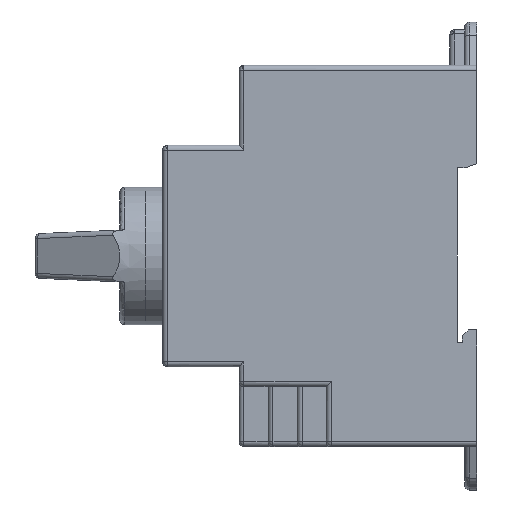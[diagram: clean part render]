
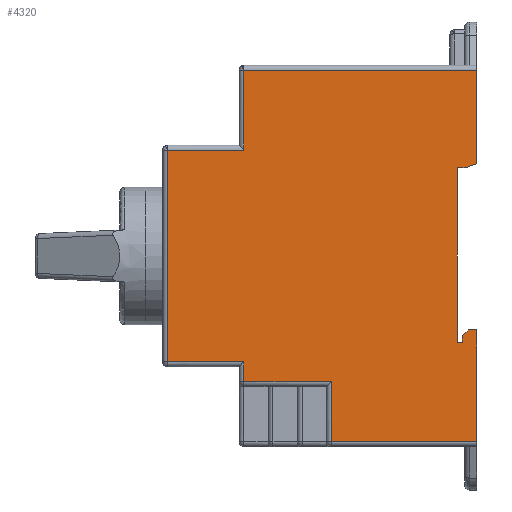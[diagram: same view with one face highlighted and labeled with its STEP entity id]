
A CAD part, left-side view. The second image highlights one B-rep face of the part: STEP entity #4320.
In plain terms, the highlighted planar face has unit normal (-1, 0, 0).
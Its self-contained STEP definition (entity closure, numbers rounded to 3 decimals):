
#18 = EDGE_CURVE ( 'NONE', #740, #2120, #5175, .T. ) ;
#26 = EDGE_CURVE ( 'NONE', #7459, #5999, #7053, .T. ) ;
#27 = DIRECTION ( 'NONE',  ( -1., 0., 0. ) ) ;
#326 = CARTESIAN_POINT ( 'NONE',  ( -30., 0., -15. ) ) ;
#327 = VECTOR ( 'NONE', #530, 1000. ) ;
#381 = CARTESIAN_POINT ( 'NONE',  ( -30., 48.3, -15. ) ) ;
#490 = DIRECTION ( 'NONE',  ( 0., 0., 1. ) ) ;
#530 = DIRECTION ( 'NONE',  ( 0., 0., -1. ) ) ;
#557 = VECTOR ( 'NONE', #8846, 1000. ) ;
#565 = DIRECTION ( 'NONE',  ( 0., 1., 0. ) ) ;
#649 = DIRECTION ( 'NONE',  ( 0., 0.707, -0.707 ) ) ;
#682 = CARTESIAN_POINT ( 'NONE',  ( -30., 47.3, 22.5 ) ) ;
#704 = VERTEX_POINT ( 'NONE', #326 ) ;
#740 = VERTEX_POINT ( 'NONE', #5548 ) ;
#748 = EDGE_CURVE ( 'NONE', #5348, #740, #7674, .T. ) ;
#874 = CARTESIAN_POINT ( 'NONE',  ( -30., 29.6, -37.7 ) ) ;
#885 = DIRECTION ( 'NONE',  ( 0., -1., 0. ) ) ;
#1061 = VECTOR ( 'NONE', #5910, 1000. ) ;
#1158 = AXIS2_PLACEMENT_3D ( 'NONE', #1830, #27, #3301 ) ;
#1283 = CARTESIAN_POINT ( 'NONE',  ( -30., 0., 22.5 ) ) ;
#1356 = CARTESIAN_POINT ( 'NONE',  ( -30., 2.397, 17.9 ) ) ;
#1830 = CARTESIAN_POINT ( 'NONE',  ( -30., 48.3, 22.5 ) ) ;
#1950 = VERTEX_POINT ( 'NONE', #9190 ) ;
#1962 = CARTESIAN_POINT ( 'NONE',  ( -30., 3.997, 22.5 ) ) ;
#2120 = VERTEX_POINT ( 'NONE', #9733 ) ;
#2207 = LINE ( 'NONE', #1356, #8258 ) ;
#2216 = LINE ( 'NONE', #381, #6154 ) ;
#2328 = EDGE_LOOP ( 'NONE', ( #7189, #6710, #4782, #10035, #8894, #3783, #2355, #3861, #9363, #5458, #8435, #2820, #7463, #5587, #4234, #8263, #6888, #4669 ) ) ;
#2355 = ORIENTED_EDGE ( 'NONE', *, *, #4299, .T. ) ;
#2468 = EDGE_CURVE ( 'NONE', #2752, #7459, #4194, .T. ) ;
#2535 = VECTOR ( 'NONE', #9530, 1000. ) ;
#2606 = VERTEX_POINT ( 'NONE', #874 ) ;
#2735 = CARTESIAN_POINT ( 'NONE',  ( -30., 2.397, 17.9 ) ) ;
#2742 = CARTESIAN_POINT ( 'NONE',  ( -30., 3.997, -17.5 ) ) ;
#2752 = VERTEX_POINT ( 'NONE', #3087 ) ;
#2770 = EDGE_CURVE ( 'NONE', #2606, #4236, #9407, .T. ) ;
#2803 = VECTOR ( 'NONE', #9737, 1000. ) ;
#2820 = ORIENTED_EDGE ( 'NONE', *, *, #2770, .T. ) ;
#3087 = CARTESIAN_POINT ( 'NONE',  ( -30., 2.397, 17.9 ) ) ;
#3098 = VECTOR ( 'NONE', #490, 1000. ) ;
#3186 = CARTESIAN_POINT ( 'NONE',  ( -30., 62.8, 22.5 ) ) ;
#3189 = VECTOR ( 'NONE', #3522, 1000. ) ;
#3301 = DIRECTION ( 'NONE',  ( 0., 0., 1. ) ) ;
#3450 = VERTEX_POINT ( 'NONE', #3851 ) ;
#3522 = DIRECTION ( 'NONE',  ( 0., 1., 0. ) ) ;
#3523 = DIRECTION ( 'NONE',  ( 0., -0.947, 0.32 ) ) ;
#3553 = EDGE_CURVE ( 'NONE', #3916, #5233, #4496, .T. ) ;
#3691 = DIRECTION ( 'NONE',  ( 0., -1., 0. ) ) ;
#3783 = ORIENTED_EDGE ( 'NONE', *, *, #4963, .T. ) ;
#3785 = CARTESIAN_POINT ( 'NONE',  ( -30., 62.8, 21.5 ) ) ;
#3822 = EDGE_CURVE ( 'NONE', #5233, #4788, #4868, .T. ) ;
#3843 = CARTESIAN_POINT ( 'NONE',  ( -30., 47.3, -21.5 ) ) ;
#3851 = CARTESIAN_POINT ( 'NONE',  ( -30., 62.8, -21.5 ) ) ;
#3861 = ORIENTED_EDGE ( 'NONE', *, *, #9888, .T. ) ;
#3916 = VERTEX_POINT ( 'NONE', #3843 ) ;
#4194 = LINE ( 'NONE', #2735, #6057 ) ;
#4234 = ORIENTED_EDGE ( 'NONE', *, *, #8112, .T. ) ;
#4236 = VERTEX_POINT ( 'NONE', #8004 ) ;
#4299 = EDGE_CURVE ( 'NONE', #8114, #3450, #4609, .T. ) ;
#4320 = ADVANCED_FACE ( 'NONE', ( #6706 ), #8143, .T. ) ;
#4378 = VECTOR ( 'NONE', #6373, 1000. ) ;
#4496 = LINE ( 'NONE', #682, #327 ) ;
#4556 = CARTESIAN_POINT ( 'NONE',  ( -30., 2.949, -16.2 ) ) ;
#4570 = EDGE_CURVE ( 'NONE', #4236, #704, #7076, .T. ) ;
#4609 = LINE ( 'NONE', #3186, #2535 ) ;
#4669 = ORIENTED_EDGE ( 'NONE', *, *, #7500, .T. ) ;
#4694 = DIRECTION ( 'NONE',  ( 0., 1., 0. ) ) ;
#4782 = ORIENTED_EDGE ( 'NONE', *, *, #26, .T. ) ;
#4788 = VERTEX_POINT ( 'NONE', #8849 ) ;
#4868 = LINE ( 'NONE', #8125, #5109 ) ;
#4907 = EDGE_CURVE ( 'NONE', #704, #6366, #2216, .T. ) ;
#4963 = EDGE_CURVE ( 'NONE', #10177, #8114, #7770, .T. ) ;
#5109 = VECTOR ( 'NONE', #885, 1000. ) ;
#5125 = LINE ( 'NONE', #5876, #7000 ) ;
#5175 = LINE ( 'NONE', #2742, #7312 ) ;
#5233 = VERTEX_POINT ( 'NONE', #8921 ) ;
#5348 = VERTEX_POINT ( 'NONE', #9201 ) ;
#5372 = LINE ( 'NONE', #9557, #4378 ) ;
#5395 = EDGE_CURVE ( 'NONE', #1950, #2752, #2207, .T. ) ;
#5436 = CARTESIAN_POINT ( 'NONE',  ( -30., 1.749, -15. ) ) ;
#5458 = ORIENTED_EDGE ( 'NONE', *, *, #3822, .T. ) ;
#5530 = LINE ( 'NONE', #4556, #9776 ) ;
#5548 = CARTESIAN_POINT ( 'NONE',  ( -30., 2.949, -17.5 ) ) ;
#5587 = ORIENTED_EDGE ( 'NONE', *, *, #4907, .T. ) ;
#5876 = CARTESIAN_POINT ( 'NONE',  ( -30., 48.3, -21.5 ) ) ;
#5881 = CARTESIAN_POINT ( 'NONE',  ( -30., 2.949, -16.2 ) ) ;
#5910 = DIRECTION ( 'NONE',  ( 0., 0., 1. ) ) ;
#5999 = VERTEX_POINT ( 'NONE', #9422 ) ;
#6057 = VECTOR ( 'NONE', #3523, 1000. ) ;
#6063 = EDGE_CURVE ( 'NONE', #4788, #2606, #5372, .T. ) ;
#6154 = VECTOR ( 'NONE', #4694, 1000. ) ;
#6366 = VERTEX_POINT ( 'NONE', #5436 ) ;
#6373 = DIRECTION ( 'NONE',  ( 0., 0., -1. ) ) ;
#6687 = EDGE_CURVE ( 'NONE', #9094, #10177, #7095, .T. ) ;
#6706 = FACE_OUTER_BOUND ( 'NONE', #2328, .T. ) ;
#6710 = ORIENTED_EDGE ( 'NONE', *, *, #2468, .T. ) ;
#6888 = ORIENTED_EDGE ( 'NONE', *, *, #18, .T. ) ;
#7000 = VECTOR ( 'NONE', #9054, 1000. ) ;
#7053 = LINE ( 'NONE', #1283, #3098 ) ;
#7054 = CARTESIAN_POINT ( 'NONE',  ( -30., 48.3, 21.5 ) ) ;
#7076 = LINE ( 'NONE', #8950, #1061 ) ;
#7095 = LINE ( 'NONE', #9808, #2803 ) ;
#7156 = DIRECTION ( 'NONE',  ( 0., 0., -1. ) ) ;
#7189 = ORIENTED_EDGE ( 'NONE', *, *, #5395, .T. ) ;
#7312 = VECTOR ( 'NONE', #9963, 1000. ) ;
#7451 = CARTESIAN_POINT ( 'NONE',  ( -30., 48.3, 37.7 ) ) ;
#7459 = VERTEX_POINT ( 'NONE', #8395 ) ;
#7463 = ORIENTED_EDGE ( 'NONE', *, *, #4570, .T. ) ;
#7500 = EDGE_CURVE ( 'NONE', #2120, #1950, #8716, .T. ) ;
#7674 = LINE ( 'NONE', #5881, #9537 ) ;
#7770 = LINE ( 'NONE', #7054, #9631 ) ;
#8004 = CARTESIAN_POINT ( 'NONE',  ( -30., 0., -37.7 ) ) ;
#8112 = EDGE_CURVE ( 'NONE', #6366, #5348, #5530, .T. ) ;
#8114 = VERTEX_POINT ( 'NONE', #3785 ) ;
#8125 = CARTESIAN_POINT ( 'NONE',  ( -30., 48.3, -25.5 ) ) ;
#8143 = PLANE ( 'NONE',  #1158 ) ;
#8258 = VECTOR ( 'NONE', #9902, 1000. ) ;
#8263 = ORIENTED_EDGE ( 'NONE', *, *, #748, .T. ) ;
#8395 = CARTESIAN_POINT ( 'NONE',  ( -30., 0., 18.709 ) ) ;
#8435 = ORIENTED_EDGE ( 'NONE', *, *, #6063, .T. ) ;
#8540 = CARTESIAN_POINT ( 'NONE',  ( -30., 47.3, 37.7 ) ) ;
#8551 = CARTESIAN_POINT ( 'NONE',  ( -30., 48.3, -37.7 ) ) ;
#8676 = EDGE_CURVE ( 'NONE', #5999, #9094, #9517, .T. ) ;
#8716 = LINE ( 'NONE', #1962, #557 ) ;
#8846 = DIRECTION ( 'NONE',  ( 0., 0., 1. ) ) ;
#8849 = CARTESIAN_POINT ( 'NONE',  ( -30., 29.6, -25.5 ) ) ;
#8894 = ORIENTED_EDGE ( 'NONE', *, *, #6687, .T. ) ;
#8921 = CARTESIAN_POINT ( 'NONE',  ( -30., 47.3, -25.5 ) ) ;
#8950 = CARTESIAN_POINT ( 'NONE',  ( -30., 0., 22.5 ) ) ;
#9054 = DIRECTION ( 'NONE',  ( 0., -1., 0. ) ) ;
#9094 = VERTEX_POINT ( 'NONE', #8540 ) ;
#9165 = VECTOR ( 'NONE', #3691, 1000. ) ;
#9190 = CARTESIAN_POINT ( 'NONE',  ( -30., 3.997, 17.9 ) ) ;
#9201 = CARTESIAN_POINT ( 'NONE',  ( -30., 2.949, -16.2 ) ) ;
#9363 = ORIENTED_EDGE ( 'NONE', *, *, #3553, .T. ) ;
#9407 = LINE ( 'NONE', #8551, #9165 ) ;
#9422 = CARTESIAN_POINT ( 'NONE',  ( -30., 0., 37.7 ) ) ;
#9517 = LINE ( 'NONE', #7451, #3189 ) ;
#9530 = DIRECTION ( 'NONE',  ( 0., 0., -1. ) ) ;
#9537 = VECTOR ( 'NONE', #7156, 1000. ) ;
#9557 = CARTESIAN_POINT ( 'NONE',  ( -30., 29.6, 22.5 ) ) ;
#9631 = VECTOR ( 'NONE', #565, 1000. ) ;
#9733 = CARTESIAN_POINT ( 'NONE',  ( -30., 3.997, -17.5 ) ) ;
#9737 = DIRECTION ( 'NONE',  ( 0., 0., -1. ) ) ;
#9776 = VECTOR ( 'NONE', #649, 1000. ) ;
#9808 = CARTESIAN_POINT ( 'NONE',  ( -30., 47.3, 22.5 ) ) ;
#9888 = EDGE_CURVE ( 'NONE', #3450, #3916, #5125, .T. ) ;
#9902 = DIRECTION ( 'NONE',  ( 0., -1., 0. ) ) ;
#9906 = CARTESIAN_POINT ( 'NONE',  ( -30., 47.3, 21.5 ) ) ;
#9963 = DIRECTION ( 'NONE',  ( 0., 1., 0. ) ) ;
#10035 = ORIENTED_EDGE ( 'NONE', *, *, #8676, .T. ) ;
#10177 = VERTEX_POINT ( 'NONE', #9906 ) ;
